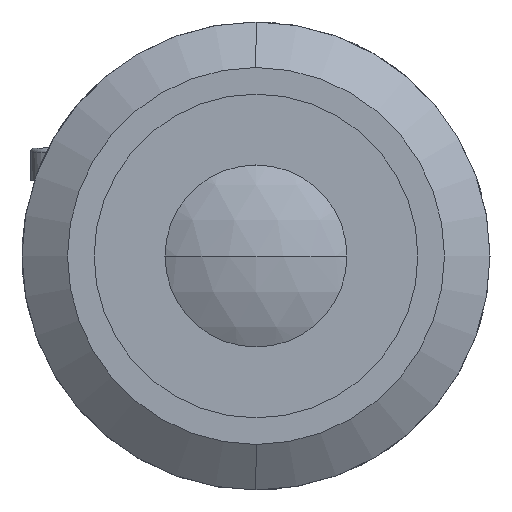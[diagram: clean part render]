
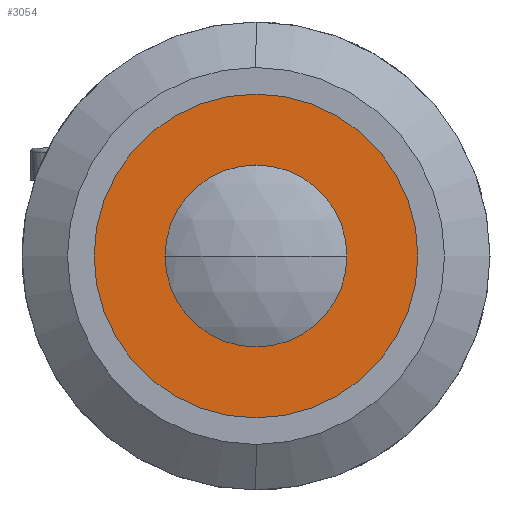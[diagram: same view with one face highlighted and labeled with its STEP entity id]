
A CAD part, left-side view. The second image highlights one B-rep face of the part: STEP entity #3054.
In plain terms, the highlighted planar face has unit normal (-1, 0, 0).
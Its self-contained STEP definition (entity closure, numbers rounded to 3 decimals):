
#62 = CARTESIAN_POINT ( 'NONE',  ( 3.8, 0., 13. ) ) ;
#87 = DIRECTION ( 'NONE',  ( 0., 0., 1. ) ) ;
#91 = AXIS2_PLACEMENT_3D ( 'NONE', #629, #2666, #942 ) ;
#183 = DIRECTION ( 'NONE',  ( 0., 0., 1. ) ) ;
#184 = CARTESIAN_POINT ( 'NONE',  ( 3.8, 0., -13. ) ) ;
#276 = CARTESIAN_POINT ( 'NONE',  ( 3.8, 0., -7. ) ) ;
#444 = ORIENTED_EDGE ( 'NONE', *, *, #1989, .F. ) ;
#537 = CIRCLE ( 'NONE', #1882, 13. ) ;
#539 = EDGE_CURVE ( 'NONE', #3332, #1574, #537, .T. ) ;
#540 = ORIENTED_EDGE ( 'NONE', *, *, #1724, .F. ) ;
#589 = ORIENTED_EDGE ( 'NONE', *, *, #539, .T. ) ;
#629 = CARTESIAN_POINT ( 'NONE',  ( 3.8, 0., 0. ) ) ;
#635 = ORIENTED_EDGE ( 'NONE', *, *, #1083, .T. ) ;
#655 = CIRCLE ( 'NONE', #3649, 7. ) ;
#757 = CARTESIAN_POINT ( 'NONE',  ( 3.8, 0., 7. ) ) ;
#771 = CARTESIAN_POINT ( 'NONE',  ( 3.8, 0., 0. ) ) ;
#841 = DIRECTION ( 'NONE',  ( 0., 0., -1. ) ) ;
#942 = DIRECTION ( 'NONE',  ( 0., 0., 1. ) ) ;
#1064 = DIRECTION ( 'NONE',  ( 0., 0., 1. ) ) ;
#1083 = EDGE_CURVE ( 'NONE', #1574, #3332, #1568, .T. ) ;
#1197 = AXIS2_PLACEMENT_3D ( 'NONE', #3655, #2002, #183 ) ;
#1208 = EDGE_LOOP ( 'NONE', ( #444, #540 ) ) ;
#1568 = CIRCLE ( 'NONE', #1197, 13. ) ;
#1574 = VERTEX_POINT ( 'NONE', #184 ) ;
#1724 = EDGE_CURVE ( 'NONE', #2550, #2135, #3530, .T. ) ;
#1882 = AXIS2_PLACEMENT_3D ( 'NONE', #771, #2790, #1064 ) ;
#1917 = DIRECTION ( 'NONE',  ( -1., 0., 0. ) ) ;
#1929 = AXIS2_PLACEMENT_3D ( 'NONE', #2310, #2570, #841 ) ;
#1989 = EDGE_CURVE ( 'NONE', #2135, #2550, #655, .T. ) ;
#2002 = DIRECTION ( 'NONE',  ( -1., 0., 0. ) ) ;
#2135 = VERTEX_POINT ( 'NONE', #757 ) ;
#2310 = CARTESIAN_POINT ( 'NONE',  ( 3.8, 13., 0. ) ) ;
#2550 = VERTEX_POINT ( 'NONE', #276 ) ;
#2570 = DIRECTION ( 'NONE',  ( 1., 0., 0. ) ) ;
#2666 = DIRECTION ( 'NONE',  ( -1., 0., 0. ) ) ;
#2790 = DIRECTION ( 'NONE',  ( -1., 0., 0. ) ) ;
#2816 = FACE_OUTER_BOUND ( 'NONE', #2931, .T. ) ;
#2905 = FACE_BOUND ( 'NONE', #1208, .T. ) ;
#2931 = EDGE_LOOP ( 'NONE', ( #589, #635 ) ) ;
#3054 = ADVANCED_FACE ( 'NONE', ( #2905, #2816 ), #3140, .F. ) ;
#3140 = PLANE ( 'NONE',  #1929 ) ;
#3332 = VERTEX_POINT ( 'NONE', #62 ) ;
#3530 = CIRCLE ( 'NONE', #91, 7. ) ;
#3583 = CARTESIAN_POINT ( 'NONE',  ( 3.8, 0., 0. ) ) ;
#3649 = AXIS2_PLACEMENT_3D ( 'NONE', #3583, #1917, #87 ) ;
#3655 = CARTESIAN_POINT ( 'NONE',  ( 3.8, 0., 0. ) ) ;
